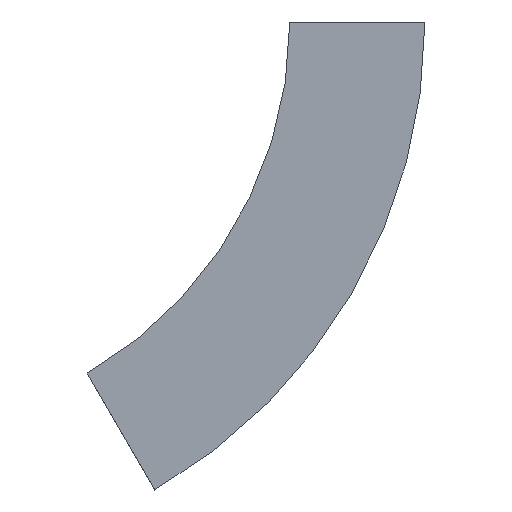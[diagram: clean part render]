
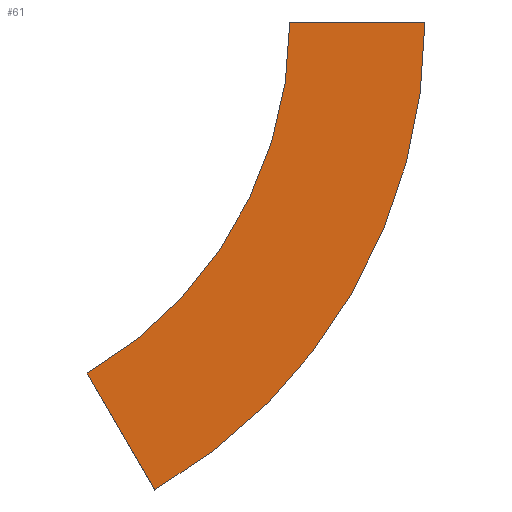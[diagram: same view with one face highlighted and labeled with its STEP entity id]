
A CAD part, left-side view. The second image highlights one B-rep face of the part: STEP entity #61.
In plain terms, the highlighted planar face has unit normal (-1, 0, 0) as drawn and (1, 0, 0) by its records, which use the part's own axes.
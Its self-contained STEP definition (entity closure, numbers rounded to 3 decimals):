
#6 = ORIENTED_EDGE ( 'NONE', *, *, #360, .F. ) ;
#19 = EDGE_CURVE ( 'NONE', #564, #144, #393, .T. ) ;
#34 = CARTESIAN_POINT ( 'NONE',  ( 0., -100., 0. ) ) ;
#57 = CIRCLE ( 'NONE', #485, 300. ) ;
#61 = ADVANCED_FACE ( 'NONE', ( #489 ), #306, .F. ) ;
#66 = DIRECTION ( 'NONE',  ( 0., 1., 0. ) ) ;
#67 = ORIENTED_EDGE ( 'NONE', *, *, #251, .F. ) ;
#83 = CARTESIAN_POINT ( 'NONE',  ( 0., -100., 0. ) ) ;
#93 = EDGE_CURVE ( 'NONE', #503, #564, #497, .T. ) ;
#95 = ORIENTED_EDGE ( 'NONE', *, *, #93, .T. ) ;
#117 = CARTESIAN_POINT ( 'NONE',  ( 0., 300., 0. ) ) ;
#120 = DIRECTION ( 'NONE',  ( 0., 0.5, 0.866 ) ) ;
#132 = CARTESIAN_POINT ( 'NONE',  ( 0., 150., -259.808 ) ) ;
#144 = VERTEX_POINT ( 'NONE', #132 ) ;
#200 = LINE ( 'NONE', #34, #308 ) ;
#217 = VERTEX_POINT ( 'NONE', #486 ) ;
#228 = CARTESIAN_POINT ( 'NONE',  ( 0., 100., -346.41 ) ) ;
#251 = EDGE_CURVE ( 'NONE', #503, #217, #200, .T. ) ;
#255 = DIRECTION ( 'NONE',  ( -1., 0., 0. ) ) ;
#270 = ORIENTED_EDGE ( 'NONE', *, *, #19, .T. ) ;
#289 = CARTESIAN_POINT ( 'NONE',  ( 0., 300., 0. ) ) ;
#298 = DIRECTION ( 'NONE',  ( 1., 0., 0. ) ) ;
#300 = AXIS2_PLACEMENT_3D ( 'NONE', #83, #255, #566 ) ;
#306 = PLANE ( 'NONE',  #300 ) ;
#308 = VECTOR ( 'NONE', #66, 1000. ) ;
#340 = CARTESIAN_POINT ( 'NONE',  ( 0., 100., -346.41 ) ) ;
#359 = AXIS2_PLACEMENT_3D ( 'NONE', #117, #438, #509 ) ;
#360 = EDGE_CURVE ( 'NONE', #217, #144, #57, .T. ) ;
#393 = LINE ( 'NONE', #340, #452 ) ;
#438 = DIRECTION ( 'NONE',  ( 1., 0., 0. ) ) ;
#452 = VECTOR ( 'NONE', #120, 1000. ) ;
#478 = DIRECTION ( 'NONE',  ( 0., -1., 0. ) ) ;
#485 = AXIS2_PLACEMENT_3D ( 'NONE', #289, #298, #478 ) ;
#486 = CARTESIAN_POINT ( 'NONE',  ( 0., 0., 0. ) ) ;
#488 = CARTESIAN_POINT ( 'NONE',  ( 0., -100., 0. ) ) ;
#489 = FACE_OUTER_BOUND ( 'NONE', #510, .T. ) ;
#497 = CIRCLE ( 'NONE', #359, 400. ) ;
#503 = VERTEX_POINT ( 'NONE', #488 ) ;
#509 = DIRECTION ( 'NONE',  ( 0., -1., 0. ) ) ;
#510 = EDGE_LOOP ( 'NONE', ( #6, #67, #95, #270 ) ) ;
#564 = VERTEX_POINT ( 'NONE', #228 ) ;
#566 = DIRECTION ( 'NONE',  ( 0., 0., 1. ) ) ;
